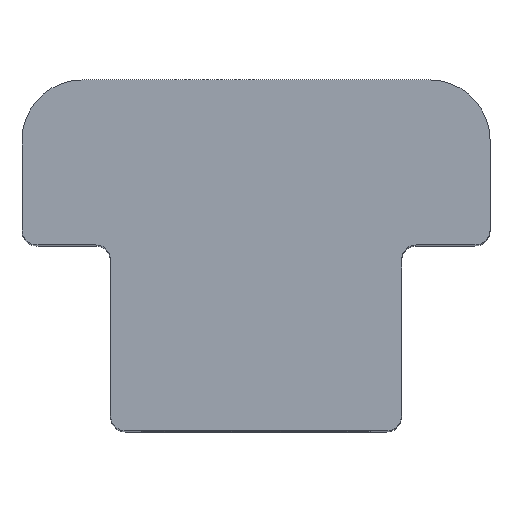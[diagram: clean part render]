
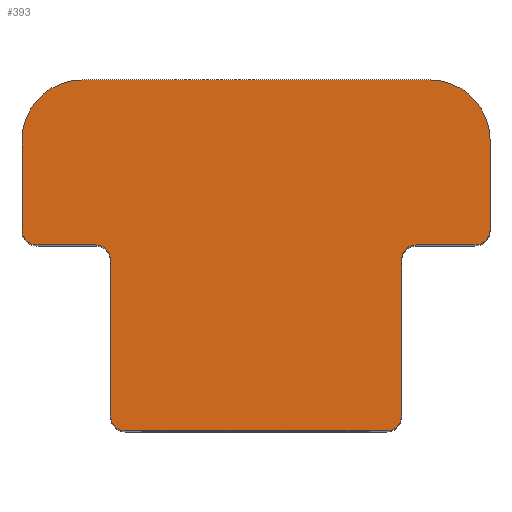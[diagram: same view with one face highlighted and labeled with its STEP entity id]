
A CAD part, top view. The second image highlights one B-rep face of the part: STEP entity #393.
In plain terms, the highlighted planar face has unit normal (0, 0, 1).
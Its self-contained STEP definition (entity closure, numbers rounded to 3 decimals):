
#28=PLANE('',#457);
#49=FACE_OUTER_BOUND('',#72,.T.);
#72=EDGE_LOOP('',(#348,#349,#350,#351,#352,#353,#354,#355,#356,#357,#358,
#359,#360,#361,#362,#363));
#83=LINE('',#619,#118);
#89=LINE('',#641,#124);
#93=LINE('',#651,#128);
#96=LINE('',#659,#131);
#99=LINE('',#666,#134);
#100=LINE('',#669,#135);
#103=LINE('',#677,#138);
#106=LINE('',#685,#141);
#118=VECTOR('',#494,10.);
#124=VECTOR('',#518,10.);
#128=VECTOR('',#530,10.);
#131=VECTOR('',#539,10.);
#134=VECTOR('',#548,10.);
#135=VECTOR('',#551,10.);
#138=VECTOR('',#560,10.);
#141=VECTOR('',#569,10.);
#143=CIRCLE('',#418,2.);
#153=CIRCLE('',#431,2.);
#157=CIRCLE('',#440,0.5);
#158=CIRCLE('',#443,0.5);
#159=CIRCLE('',#446,0.5);
#160=CIRCLE('',#450,0.5);
#161=CIRCLE('',#453,0.5);
#162=CIRCLE('',#456,0.5);
#163=VERTEX_POINT('',#579);
#164=VERTEX_POINT('',#580);
#181=VERTEX_POINT('',#618);
#183=VERTEX_POINT('',#624);
#187=VERTEX_POINT('',#638);
#188=VERTEX_POINT('',#640);
#189=VERTEX_POINT('',#646);
#190=VERTEX_POINT('',#650);
#191=VERTEX_POINT('',#654);
#192=VERTEX_POINT('',#658);
#193=VERTEX_POINT('',#662);
#194=VERTEX_POINT('',#668);
#195=VERTEX_POINT('',#672);
#196=VERTEX_POINT('',#676);
#197=VERTEX_POINT('',#680);
#198=VERTEX_POINT('',#684);
#199=EDGE_CURVE('',#163,#164,#143,.T.);
#218=EDGE_CURVE('',#181,#164,#83,.T.);
#221=EDGE_CURVE('',#181,#183,#153,.T.);
#229=EDGE_CURVE('',#188,#187,#89,.T.);
#232=EDGE_CURVE('',#189,#188,#157,.T.);
#234=EDGE_CURVE('',#190,#189,#93,.T.);
#236=EDGE_CURVE('',#191,#190,#158,.T.);
#238=EDGE_CURVE('',#192,#191,#96,.T.);
#240=EDGE_CURVE('',#193,#192,#159,.T.);
#242=EDGE_CURVE('',#163,#193,#99,.T.);
#243=EDGE_CURVE('',#194,#183,#100,.T.);
#245=EDGE_CURVE('',#195,#194,#160,.T.);
#247=EDGE_CURVE('',#196,#195,#103,.T.);
#249=EDGE_CURVE('',#197,#196,#161,.T.);
#251=EDGE_CURVE('',#198,#197,#106,.T.);
#253=EDGE_CURVE('',#187,#198,#162,.T.);
#348=ORIENTED_EDGE('',*,*,#199,.F.);
#349=ORIENTED_EDGE('',*,*,#242,.T.);
#350=ORIENTED_EDGE('',*,*,#240,.T.);
#351=ORIENTED_EDGE('',*,*,#238,.T.);
#352=ORIENTED_EDGE('',*,*,#236,.T.);
#353=ORIENTED_EDGE('',*,*,#234,.T.);
#354=ORIENTED_EDGE('',*,*,#232,.T.);
#355=ORIENTED_EDGE('',*,*,#229,.T.);
#356=ORIENTED_EDGE('',*,*,#253,.T.);
#357=ORIENTED_EDGE('',*,*,#251,.T.);
#358=ORIENTED_EDGE('',*,*,#249,.T.);
#359=ORIENTED_EDGE('',*,*,#247,.T.);
#360=ORIENTED_EDGE('',*,*,#245,.T.);
#361=ORIENTED_EDGE('',*,*,#243,.T.);
#362=ORIENTED_EDGE('',*,*,#221,.F.);
#363=ORIENTED_EDGE('',*,*,#218,.T.);
#393=ADVANCED_FACE('',(#49),#28,.T.);
#418=AXIS2_PLACEMENT_3D('',#581,#462,#463);
#431=AXIS2_PLACEMENT_3D('',#625,#500,#501);
#440=AXIS2_PLACEMENT_3D('',#647,#525,#526);
#443=AXIS2_PLACEMENT_3D('',#655,#534,#535);
#446=AXIS2_PLACEMENT_3D('',#663,#543,#544);
#450=AXIS2_PLACEMENT_3D('',#673,#555,#556);
#453=AXIS2_PLACEMENT_3D('',#681,#564,#565);
#456=AXIS2_PLACEMENT_3D('',#688,#573,#574);
#457=AXIS2_PLACEMENT_3D('',#689,#575,#576);
#462=DIRECTION('center_axis',(0.,0.,-1.));
#463=DIRECTION('ref_axis',(-0.707,0.707,0.));
#494=DIRECTION('',(-1.,0.,0.));
#500=DIRECTION('center_axis',(0.,0.,-1.));
#501=DIRECTION('ref_axis',(0.707,0.707,0.));
#518=DIRECTION('',(1.,0.,0.));
#525=DIRECTION('center_axis',(0.,0.,1.));
#526=DIRECTION('ref_axis',(-1.,0.,0.));
#530=DIRECTION('',(0.,-1.,0.));
#534=DIRECTION('center_axis',(0.,0.,-1.));
#535=DIRECTION('ref_axis',(-1.,0.,0.));
#539=DIRECTION('',(1.,0.,0.));
#543=DIRECTION('center_axis',(0.,0.,1.));
#544=DIRECTION('ref_axis',(-1.,0.,0.));
#548=DIRECTION('',(0.,-1.,0.));
#551=DIRECTION('',(0.,1.,0.));
#555=DIRECTION('center_axis',(0.,0.,1.));
#556=DIRECTION('ref_axis',(0.,-1.,0.));
#560=DIRECTION('',(1.,0.,0.));
#564=DIRECTION('center_axis',(0.,0.,-1.));
#565=DIRECTION('ref_axis',(0.,-1.,0.));
#569=DIRECTION('',(0.,1.,0.));
#573=DIRECTION('center_axis',(0.,0.,1.));
#574=DIRECTION('ref_axis',(0.,-1.,0.));
#575=DIRECTION('center_axis',(0.,0.,1.));
#576=DIRECTION('ref_axis',(1.,0.,0.));
#579=CARTESIAN_POINT('',(-7.8,9.7,10.5));
#580=CARTESIAN_POINT('',(-5.8,11.7,10.5));
#581=CARTESIAN_POINT('Origin',(-5.8,9.7,10.5));
#618=CARTESIAN_POINT('',(5.8,11.7,10.5));
#619=CARTESIAN_POINT('',(7.8,11.7,10.5));
#624=CARTESIAN_POINT('',(7.8,9.7,10.5));
#625=CARTESIAN_POINT('Origin',(5.8,9.7,10.5));
#638=CARTESIAN_POINT('',(4.35,0.,10.5));
#640=CARTESIAN_POINT('',(-4.35,0.,10.5));
#641=CARTESIAN_POINT('',(-4.35,0.,10.5));
#646=CARTESIAN_POINT('',(-4.85,0.5,10.5));
#647=CARTESIAN_POINT('Origin',(-4.35,0.5,10.5));
#650=CARTESIAN_POINT('',(-4.85,5.7,10.5));
#651=CARTESIAN_POINT('',(-4.85,5.7,10.5));
#654=CARTESIAN_POINT('',(-5.35,6.2,10.5));
#655=CARTESIAN_POINT('Origin',(-5.35,5.7,10.5));
#658=CARTESIAN_POINT('',(-7.3,6.2,10.5));
#659=CARTESIAN_POINT('',(-7.3,6.2,10.5));
#662=CARTESIAN_POINT('',(-7.8,6.7,10.5));
#663=CARTESIAN_POINT('Origin',(-7.3,6.7,10.5));
#666=CARTESIAN_POINT('',(-7.8,11.7,10.5));
#668=CARTESIAN_POINT('',(7.8,6.7,10.5));
#669=CARTESIAN_POINT('',(7.8,6.7,10.5));
#672=CARTESIAN_POINT('',(7.3,6.2,10.5));
#673=CARTESIAN_POINT('Origin',(7.3,6.7,10.5));
#676=CARTESIAN_POINT('',(5.35,6.2,10.5));
#677=CARTESIAN_POINT('',(5.35,6.2,10.5));
#680=CARTESIAN_POINT('',(4.85,5.7,10.5));
#681=CARTESIAN_POINT('Origin',(5.35,5.7,10.5));
#684=CARTESIAN_POINT('',(4.85,0.5,10.5));
#685=CARTESIAN_POINT('',(4.85,0.5,10.5));
#688=CARTESIAN_POINT('Origin',(4.35,0.5,10.5));
#689=CARTESIAN_POINT('Origin',(0.,5.85,10.5));
